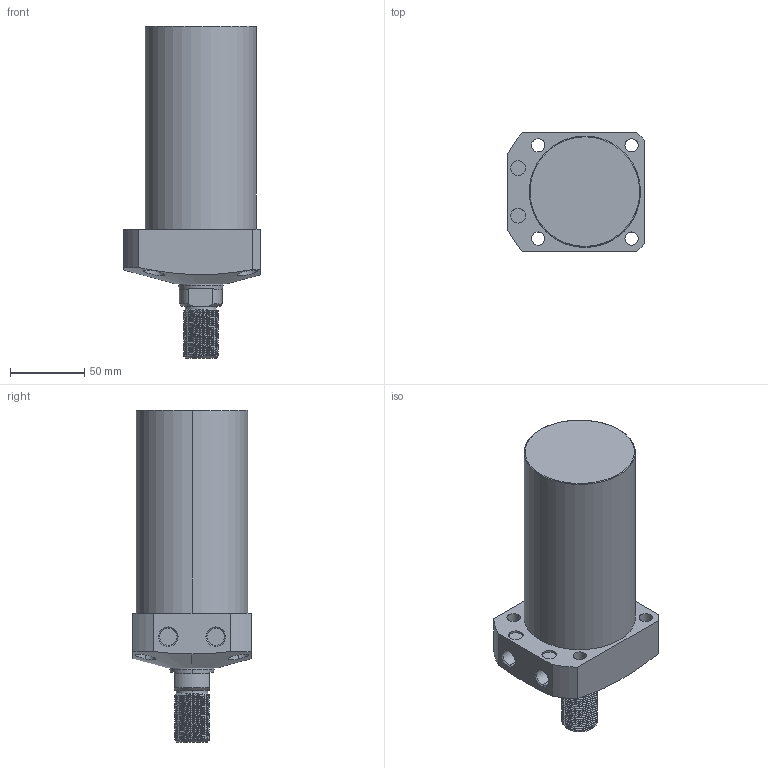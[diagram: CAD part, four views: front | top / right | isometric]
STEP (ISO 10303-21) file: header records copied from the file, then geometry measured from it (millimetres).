
FILE_DESCRIPTION (( 'STEP AP203' ), '1' );
FILE_NAME ('CLL-075CT-100.STEP', '2020-01-08T12:03:33', ( '' ), ( '' ), 'SwSTEP 2.0', 'SolidWorks 2015', '' );
FILE_SCHEMA (( 'CONFIG_CONTROL_DESIGN' ));
Length unit declared in the file: millimetre
Products named in the file (1): CLL-075CT-100
Bounding box: 92 x 80 x 224 mm (x, y, z)
Volume: 846527.6 mm3; surface area: 67086.5 mm2
Topology: 1 solids, 1 shells, 121 faces, 310 edges, 202 vertices
Faces by surface type: cylinder 77, plane 23, cone 17, torus 2, bspline 2
Entity records: 6528 total; most frequent: CARTESIAN_POINT 3738, ORIENTED_EDGE 620, DIRECTION 517, EDGE_CURVE 310, AXIS2_PLACEMENT_3D 204, VERTEX_POINT 202, EDGE_LOOP 140, FACE_OUTER_BOUND 121
